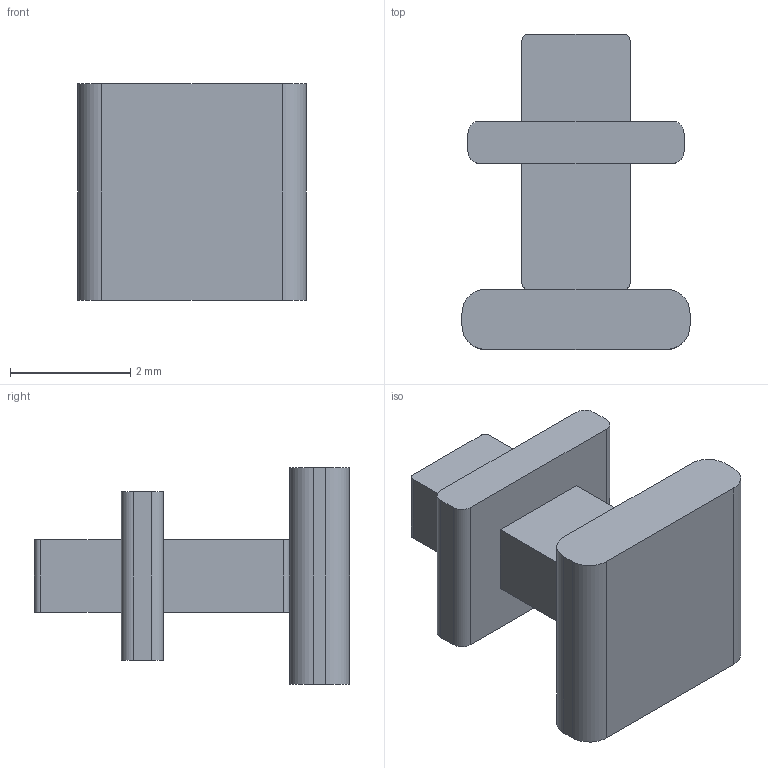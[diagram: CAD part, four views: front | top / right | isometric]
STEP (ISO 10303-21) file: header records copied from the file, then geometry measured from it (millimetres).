
FILE_DESCRIPTION(('Open CASCADE Model'),'2;1');
FILE_NAME('Open CASCADE Shape Model','2026-11-21T23:17:20',('Author'),( 'Open CASCADE'),'Open CASCADE STEP processor 7.9','Open CASCADE 7.9' ,'Unknown');
FILE_SCHEMA(('AUTOMOTIVE_DESIGN { 1 0 10303 214 1 1 1 1 }'));
Length unit declared in the file: millimetre
Products named in the file (1): Open CASCADE STEP translator 7.9 4
Bounding box: 3.8 x 5.25 x 3.6 mm (x, y, z)
Volume: 27.8 mm3; surface area: 84.7 mm2
Topology: 1 solids, 1 shells, 33 faces, 84 edges, 56 vertices
Faces by surface type: plane 21, cylinder 12
Entity records: 2140 total; most frequent: CARTESIAN_POINT 414, DIRECTION 332, LINE 204, VECTOR 204, ORIENTED_EDGE 168, PCURVE 168, DEFINITIONAL_REPRESENTATION 168, EDGE_CURVE 84
